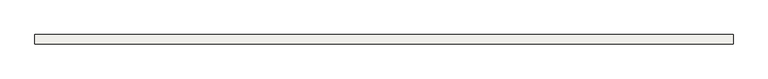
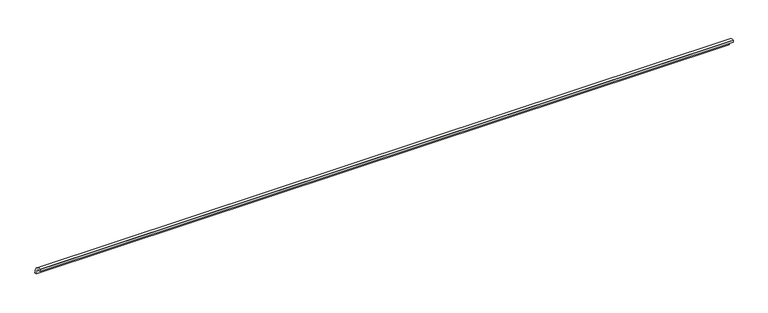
"""IFC4 building model written with IfcOpenShell, lengths in millimetres: slab geometry, ROSA GRES_183 : Pieza 183_Tao_Beige_Liso."""

from ifc_helpers import new_model, si_unit, point, frame, frame_2d, origin, origin_2d, place, context, project, spatial, polyline, circle_curve, trimmed, segment, composite_curve, outline, extrude, source, transform, mapped, element, save


def slab_f8d4f0c7(model_context):
    return source(origin(), model_context, "Body", "SweptSolid", [
        extrude(outline(composite_curve([segment(trimmed(circle_curve(origin_2d(), 40.0), [point((0.0, 40.0))], [point((40.0, 0.0))], False, "CARTESIAN"), True, "CONTINUOUS"), segment(polyline([(40.0, 0.0), (30.0265886, 0.0)]), True, "CONTINUOUS"), segment(trimmed(circle_curve(frame_2d((0.0044453, 0.0044453)), 30.0221435), [point((30.0265886, 0.0))], [point((0.0, 30.0265886))], True, "CARTESIAN"), True, "CONTINUOUS"), segment(polyline([(0.0, 30.0265886), (0.0, 40.0)]), True, "CONTINUOUS")], self_intersect=False)), frame((0.0, 0.0, 0.0), z_axis=(1.0, 0.0, 0.0), x_axis=(0.0, 1.0, 0.0)), (0.0, 0.0, 1.0), 3022.0),
    ])


if __name__ == "__main__":
    model = new_model("IFC4")
    model_context = context("Model", 3, world=origin())
    ifc_project = project(units=[si_unit("LENGTHUNIT", "METRE", prefix="MILLI")], contexts=[model_context])
    site = spatial("IfcSite", under=ifc_project)
    building = spatial("IfcBuilding", under=site)
    placement = place(None, origin())
    slab_shape = slab_f8d4f0c7(model_context)
    element("IfcSlab", 1, ObjectType="ROSA GRES_183 : Pieza 183_Tao_Beige_Liso", at=placement, inside=building, context=model_context, shape_type="MappedRepresentation", body=[
        mapped(slab_shape, transform((0.0, 0.0, 0.0), x_axis=(1.0, 0.0, 0.0), y_axis=(0.0, 1.0, 0.0), z_axis=(0.0, 0.0, 1.0))),
    ])
    save(model, "model.ifc")
